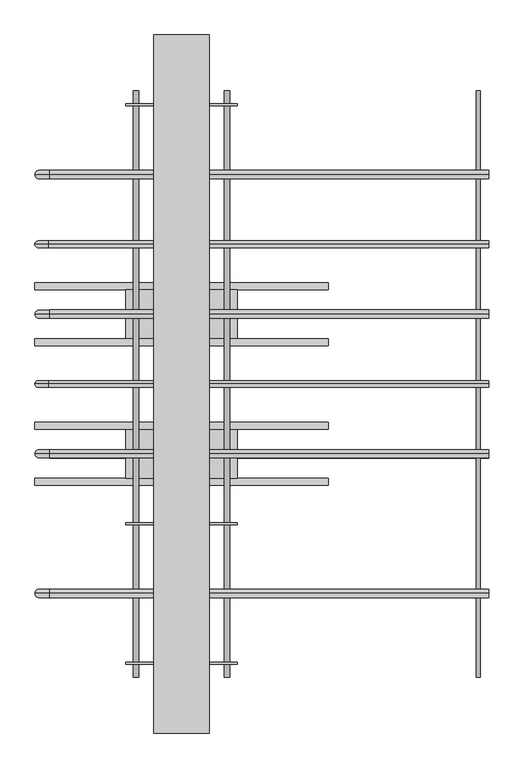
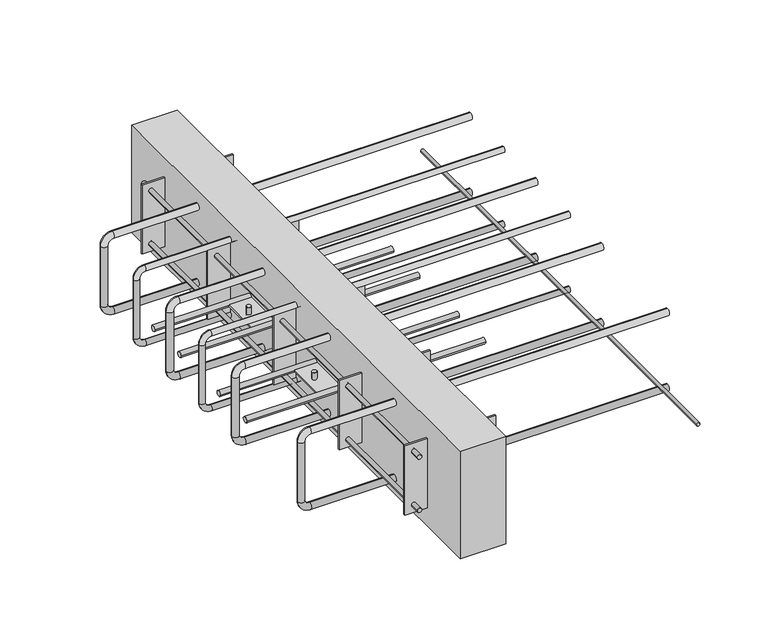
"""IFC4 building model written with IfcOpenShell, lengths in millimetres: proxy geometry, ACINOXplus_Typenreihe_Ux-Ox : UD+ S2."""

from ifc_helpers import new_model, si_unit, point, frame, frame_2d, origin, place, context, project, spatial, polyline, circle_curve, ellipse_curve, trimmed, segment, composite_curve, outline, extrude, source, transform, mapped, element, save
from ifc_brep_helpers import plane_surface, cylinder_surface, revolved_surface, advanced_brep


def generic_models_db024a5b(model_context):
    return source(origin(), model_context, "Body", "SolidModel", [
        advanced_brep(
        [(440.0, 100.0, -23.5), (440.0, 100.0, -35.5), (-189.0, 100.0, -23.5), (-189.0, 100.0, -35.5), (-198.0, 100.0, -44.5), (-210.0, 100.0, -44.5), (-210.0, 100.0, -155.5), (-198.0, 100.0, -155.5), (-189.0, 100.0, -164.5), (-189.0, 100.0, -176.5), (440.0, 100.0, -176.5), (440.0, 100.0, -164.5)],
        [
            (0, 1, circle_curve(frame((440.0, 100.0, -29.5), z_axis=(1.0, 0.0, 0.0), x_axis=(0.0, 0.0, -1.0)), 6.0)),
            (1, 0, circle_curve(frame((440.0, 100.0, -29.5), z_axis=(1.0, 0.0, 0.0), x_axis=(0.0, 0.0, -1.0)), 6.0)),
            (0, 2),
            (2, 3, circle_curve(frame((-189.0, 100.0, -29.5), z_axis=(1.0, 0.0, 0.0), x_axis=(0.0, 0.0, -1.0)), 6.0)),
            (3, 1),
            (3, 2, circle_curve(frame((-189.0, 100.0, -29.5), z_axis=(1.0, 0.0, 0.0), x_axis=(0.0, 0.0, -1.0)), 6.0)),
            (4, 3, circle_curve(frame((-189.0, 100.0, -44.5), z_axis=(0.0, 1.0, 0.0), x_axis=(0.0, 0.0, 1.0)), 9.0)),
            (2, 5, circle_curve(frame((-189.0, 100.0, -44.5), z_axis=(0.0, -1.0, 0.0), x_axis=(0.0, 0.0, 1.0)), 21.0)),
            (5, 4, circle_curve(frame((-204.0, 100.0, -44.5), z_axis=(0.0, 0.0, 1.0), x_axis=(1.0, 0.0, 0.0)), 6.0)),
            (4, 5, circle_curve(frame((-204.0, 100.0, -44.5), z_axis=(0.0, 0.0, 1.0), x_axis=(1.0, 0.0, 0.0)), 6.0)),
            (5, 6),
            (6, 7, circle_curve(frame((-204.0, 100.0, -155.5), z_axis=(0.0, 0.0, 1.0), x_axis=(1.0, 0.0, 0.0)), 6.0)),
            (7, 4),
            (7, 6, circle_curve(frame((-204.0, 100.0, -155.5), z_axis=(0.0, 0.0, 1.0), x_axis=(1.0, 0.0, 0.0)), 6.0)),
            (8, 7, circle_curve(frame((-189.0, 100.0, -155.5), z_axis=(0.0, 1.0, 0.0), x_axis=(-1.0, 0.0, 0.0)), 9.0)),
            (6, 9, circle_curve(frame((-189.0, 100.0, -155.5), z_axis=(0.0, -1.0, 0.0), x_axis=(-1.0, 0.0, 0.0)), 21.0)),
            (9, 8, circle_curve(frame((-189.0, 100.0, -170.5), z_axis=(-1.0, 0.0, 0.0), x_axis=(0.0, 0.0, 1.0)), 6.0)),
            (8, 9, circle_curve(frame((-189.0, 100.0, -170.5), z_axis=(-1.0, 0.0, 0.0), x_axis=(0.0, 0.0, 1.0)), 6.0)),
            (10, 11, circle_curve(frame((440.0, 100.0, -170.5), z_axis=(1.0, 0.0, 0.0), x_axis=(0.0, 0.0, 1.0)), 6.0)),
            (11, 10, circle_curve(frame((440.0, 100.0, -170.5), z_axis=(1.0, 0.0, 0.0), x_axis=(0.0, 0.0, 1.0)), 6.0)),
            (9, 10),
            (11, 8),
        ],
        [
            plane_surface(frame((440.0, 100.0, -29.5), z_axis=(1.0, 0.0, 0.0), x_axis=(0.0, -1.0, 0.0))),
            cylinder_surface(frame((440.0, 100.0, -29.5), z_axis=(1.0, 0.0, 0.0), x_axis=(0.0, 0.0, -1.0)), 6.0),
            revolved_surface(trimmed(ellipse_curve(frame((-189.0, 100.0, -29.5), z_axis=(1.0, 0.0, 0.0), x_axis=(0.0, 0.0, -1.0)), 6.0, 6.0), [point((-189.0, 100.0, -23.5))], [point((-189.0, 100.0, -35.5))], True, "CARTESIAN"), (-189.0, 100.0, -44.5), (0.0, -1.0, 0.0)),
            revolved_surface(trimmed(ellipse_curve(frame((-189.0, 100.0, -29.5), z_axis=(1.0, 0.0, 0.0), x_axis=(0.0, 0.0, -1.0)), 6.0, 6.0), [point((-189.0, 100.0, -35.5))], [point((-189.0, 100.0, -23.5))], True, "CARTESIAN"), (-189.0, 100.0, -44.5), (0.0, -1.0, 0.0)),
            cylinder_surface(frame((-204.0, 100.0, -44.5), z_axis=(0.0, 0.0, 1.0), x_axis=(1.0, 0.0, 0.0)), 6.0),
            revolved_surface(trimmed(ellipse_curve(frame((-204.0, 100.0, -155.5), z_axis=(0.0, 0.0, 1.0), x_axis=(1.0, 0.0, 0.0)), 6.0, 6.0), [point((-210.0, 100.0, -155.5))], [point((-198.0, 100.0, -155.5))], True, "CARTESIAN"), (-189.0, 100.0, -155.5), (0.0, -1.0, 0.0)),
            revolved_surface(trimmed(ellipse_curve(frame((-204.0, 100.0, -155.5), z_axis=(0.0, 0.0, 1.0), x_axis=(1.0, 0.0, 0.0)), 6.0, 6.0), [point((-198.0, 100.0, -155.5))], [point((-210.0, 100.0, -155.5))], True, "CARTESIAN"), (-189.0, 100.0, -155.5), (0.0, -1.0, 0.0)),
            plane_surface(frame((440.0, 100.0, -170.5), z_axis=(1.0, 0.0, 0.0), x_axis=(0.0, -1.0, 0.0))),
            cylinder_surface(frame((-189.0, 100.0, -170.5), z_axis=(-1.0, 0.0, 0.0), x_axis=(0.0, 0.0, 1.0)), 6.0),
        ],
        [
            (0, [[1, 2]]),
            (1, [[-1, 3, 4, 5]]),
            (1, [[-2, -5, 6, -3]]),
            (2, [[7, -4, 8, 9]]),
            (3, [[-8, -6, -7, 10]]),
            (4, [[-9, 11, 12, 13]]),
            (4, [[-10, -13, 14, -11]]),
            (5, [[15, -12, 16, 17]]),
            (6, [[-16, -14, -15, 18]]),
            (7, [[19, 20]]),
            (8, [[-17, 21, -20, 22]]),
            (8, [[-18, -22, -19, -21]]),
        ],
    ),
        advanced_brep(
        [(440.0, -100.0, -23.5), (440.0, -100.0, -35.5), (-189.0, -100.0, -23.5), (-189.0, -100.0, -35.5), (-198.0, -100.0, -44.5), (-210.0, -100.0, -44.5), (-210.0, -100.0, -155.5), (-198.0, -100.0, -155.5), (-189.0, -100.0, -164.5), (-189.0, -100.0, -176.5), (440.0, -100.0, -176.5), (440.0, -100.0, -164.5)],
        [
            (0, 1, circle_curve(frame((440.0, -100.0, -29.5), z_axis=(1.0, 0.0, 0.0), x_axis=(0.0, 0.0, -1.0)), 6.0)),
            (1, 0, circle_curve(frame((440.0, -100.0, -29.5), z_axis=(1.0, 0.0, 0.0), x_axis=(0.0, 0.0, -1.0)), 6.0)),
            (0, 2),
            (2, 3, circle_curve(frame((-189.0, -100.0, -29.5), z_axis=(1.0, 0.0, 0.0), x_axis=(0.0, 0.0, -1.0)), 6.0)),
            (3, 1),
            (3, 2, circle_curve(frame((-189.0, -100.0, -29.5), z_axis=(1.0, 0.0, 0.0), x_axis=(0.0, 0.0, -1.0)), 6.0)),
            (4, 3, circle_curve(frame((-189.0, -100.0, -44.5), z_axis=(0.0, 1.0, 0.0), x_axis=(0.0, 0.0, 1.0)), 9.0)),
            (2, 5, circle_curve(frame((-189.0, -100.0, -44.5), z_axis=(0.0, -1.0, 0.0), x_axis=(0.0, 0.0, 1.0)), 21.0)),
            (5, 4, circle_curve(frame((-204.0, -100.0, -44.5), z_axis=(0.0, 0.0, 1.0), x_axis=(1.0, 0.0, 0.0)), 6.0)),
            (4, 5, circle_curve(frame((-204.0, -100.0, -44.5), z_axis=(0.0, 0.0, 1.0), x_axis=(1.0, 0.0, 0.0)), 6.0)),
            (5, 6),
            (6, 7, circle_curve(frame((-204.0, -100.0, -155.5), z_axis=(0.0, 0.0, 1.0), x_axis=(1.0, 0.0, 0.0)), 6.0)),
            (7, 4),
            (7, 6, circle_curve(frame((-204.0, -100.0, -155.5), z_axis=(0.0, 0.0, 1.0), x_axis=(1.0, 0.0, 0.0)), 6.0)),
            (8, 7, circle_curve(frame((-189.0, -100.0, -155.5), z_axis=(0.0, 1.0, 0.0), x_axis=(-1.0, 0.0, 0.0)), 9.0)),
            (6, 9, circle_curve(frame((-189.0, -100.0, -155.5), z_axis=(0.0, -1.0, 0.0), x_axis=(-1.0, 0.0, 0.0)), 21.0)),
            (9, 8, circle_curve(frame((-189.0, -100.0, -170.5), z_axis=(-1.0, 0.0, 0.0), x_axis=(0.0, 0.0, 1.0)), 6.0)),
            (8, 9, circle_curve(frame((-189.0, -100.0, -170.5), z_axis=(-1.0, 0.0, 0.0), x_axis=(0.0, 0.0, 1.0)), 6.0)),
            (10, 11, circle_curve(frame((440.0, -100.0, -170.5), z_axis=(1.0, 0.0, 0.0), x_axis=(0.0, 0.0, 1.0)), 6.0)),
            (11, 10, circle_curve(frame((440.0, -100.0, -170.5), z_axis=(1.0, 0.0, 0.0), x_axis=(0.0, 0.0, 1.0)), 6.0)),
            (9, 10),
            (11, 8),
        ],
        [
            plane_surface(frame((440.0, -100.0, -29.5), z_axis=(1.0, 0.0, 0.0), x_axis=(0.0, -1.0, 0.0))),
            cylinder_surface(frame((440.0, -100.0, -29.5), z_axis=(1.0, 0.0, 0.0), x_axis=(0.0, 0.0, -1.0)), 6.0),
            revolved_surface(trimmed(ellipse_curve(frame((-189.0, -100.0, -29.5), z_axis=(1.0, 0.0, 0.0), x_axis=(0.0, 0.0, -1.0)), 6.0, 6.0), [point((-189.0, -100.0, -23.5))], [point((-189.0, -100.0, -35.5))], True, "CARTESIAN"), (-189.0, -100.0, -44.5), (0.0, -1.0, 0.0)),
            revolved_surface(trimmed(ellipse_curve(frame((-189.0, -100.0, -29.5), z_axis=(1.0, 0.0, 0.0), x_axis=(0.0, 0.0, -1.0)), 6.0, 6.0), [point((-189.0, -100.0, -35.5))], [point((-189.0, -100.0, -23.5))], True, "CARTESIAN"), (-189.0, -100.0, -44.5), (0.0, -1.0, 0.0)),
            cylinder_surface(frame((-204.0, -100.0, -44.5), z_axis=(0.0, 0.0, 1.0), x_axis=(1.0, 0.0, 0.0)), 6.0),
            revolved_surface(trimmed(ellipse_curve(frame((-204.0, -100.0, -155.5), z_axis=(0.0, 0.0, 1.0), x_axis=(1.0, 0.0, 0.0)), 6.0, 6.0), [point((-210.0, -100.0, -155.5))], [point((-198.0, -100.0, -155.5))], True, "CARTESIAN"), (-189.0, -100.0, -155.5), (0.0, -1.0, 0.0)),
            revolved_surface(trimmed(ellipse_curve(frame((-204.0, -100.0, -155.5), z_axis=(0.0, 0.0, 1.0), x_axis=(1.0, 0.0, 0.0)), 6.0, 6.0), [point((-198.0, -100.0, -155.5))], [point((-210.0, -100.0, -155.5))], True, "CARTESIAN"), (-189.0, -100.0, -155.5), (0.0, -1.0, 0.0)),
            plane_surface(frame((440.0, -100.0, -170.5), z_axis=(1.0, 0.0, 0.0), x_axis=(0.0, -1.0, 0.0))),
            cylinder_surface(frame((-189.0, -100.0, -170.5), z_axis=(-1.0, 0.0, 0.0), x_axis=(0.0, 0.0, 1.0)), 6.0),
        ],
        [
            (0, [[1, 2]]),
            (1, [[-1, 3, 4, 5]]),
            (1, [[-2, -5, 6, -3]]),
            (2, [[7, -4, 8, 9]]),
            (3, [[-8, -6, -7, 10]]),
            (4, [[-9, 11, 12, 13]]),
            (4, [[-10, -13, 14, -11]]),
            (5, [[15, -12, 16, 17]]),
            (6, [[-16, -14, -15, 18]]),
            (7, [[19, 20]]),
            (8, [[-17, 21, -20, 22]]),
            (8, [[-18, -22, -19, -21]]),
        ],
    ),
        advanced_brep(
        [(440.0, 300.0, -23.5), (440.0, 300.0, -35.5), (-189.0, 300.0, -23.5), (-189.0, 300.0, -35.5), (-198.0, 300.0, -44.5), (-210.0, 300.0, -44.5), (-210.0, 300.0, -155.5), (-198.0, 300.0, -155.5), (-189.0, 300.0, -164.5), (-189.0, 300.0, -176.5), (440.0, 300.0, -176.5), (440.0, 300.0, -164.5)],
        [
            (0, 1, circle_curve(frame((440.0, 300.0, -29.5), z_axis=(1.0, 0.0, 0.0), x_axis=(0.0, 0.0, -1.0)), 6.0)),
            (1, 0, circle_curve(frame((440.0, 300.0, -29.5), z_axis=(1.0, 0.0, 0.0), x_axis=(0.0, 0.0, -1.0)), 6.0)),
            (0, 2),
            (2, 3, circle_curve(frame((-189.0, 300.0, -29.5), z_axis=(1.0, 0.0, 0.0), x_axis=(0.0, 0.0, -1.0)), 6.0)),
            (3, 1),
            (3, 2, circle_curve(frame((-189.0, 300.0, -29.5), z_axis=(1.0, 0.0, 0.0), x_axis=(0.0, 0.0, -1.0)), 6.0)),
            (4, 3, circle_curve(frame((-189.0, 300.0, -44.5), z_axis=(0.0, 1.0, 0.0), x_axis=(0.0, 0.0, 1.0)), 9.0)),
            (2, 5, circle_curve(frame((-189.0, 300.0, -44.5), z_axis=(0.0, -1.0, 0.0), x_axis=(0.0, 0.0, 1.0)), 21.0)),
            (5, 4, circle_curve(frame((-204.0, 300.0, -44.5), z_axis=(0.0, 0.0, 1.0), x_axis=(1.0, 0.0, 0.0)), 6.0)),
            (4, 5, circle_curve(frame((-204.0, 300.0, -44.5), z_axis=(0.0, 0.0, 1.0), x_axis=(1.0, 0.0, 0.0)), 6.0)),
            (5, 6),
            (6, 7, circle_curve(frame((-204.0, 300.0, -155.5), z_axis=(0.0, 0.0, 1.0), x_axis=(1.0, 0.0, 0.0)), 6.0)),
            (7, 4),
            (7, 6, circle_curve(frame((-204.0, 300.0, -155.5), z_axis=(0.0, 0.0, 1.0), x_axis=(1.0, 0.0, 0.0)), 6.0)),
            (8, 7, circle_curve(frame((-189.0, 300.0, -155.5), z_axis=(0.0, 1.0, 0.0), x_axis=(-1.0, 0.0, 0.0)), 9.0)),
            (6, 9, circle_curve(frame((-189.0, 300.0, -155.5), z_axis=(0.0, -1.0, 0.0), x_axis=(-1.0, 0.0, 0.0)), 21.0)),
            (9, 8, circle_curve(frame((-189.0, 300.0, -170.5), z_axis=(-1.0, 0.0, 0.0), x_axis=(0.0, 0.0, 1.0)), 6.0)),
            (8, 9, circle_curve(frame((-189.0, 300.0, -170.5), z_axis=(-1.0, 0.0, 0.0), x_axis=(0.0, 0.0, 1.0)), 6.0)),
            (10, 11, circle_curve(frame((440.0, 300.0, -170.5), z_axis=(1.0, 0.0, 0.0), x_axis=(0.0, 0.0, 1.0)), 6.0)),
            (11, 10, circle_curve(frame((440.0, 300.0, -170.5), z_axis=(1.0, 0.0, 0.0), x_axis=(0.0, 0.0, 1.0)), 6.0)),
            (9, 10),
            (11, 8),
        ],
        [
            plane_surface(frame((440.0, 300.0, -29.5), z_axis=(1.0, 0.0, 0.0), x_axis=(0.0, -1.0, 0.0))),
            cylinder_surface(frame((440.0, 300.0, -29.5), z_axis=(1.0, 0.0, 0.0), x_axis=(0.0, 0.0, -1.0)), 6.0),
            revolved_surface(trimmed(ellipse_curve(frame((-189.0, 300.0, -29.5), z_axis=(1.0, 0.0, 0.0), x_axis=(0.0, 0.0, -1.0)), 6.0, 6.0), [point((-189.0, 300.0, -23.5))], [point((-189.0, 300.0, -35.5))], True, "CARTESIAN"), (-189.0, 300.0, -44.5), (0.0, -1.0, 0.0)),
            revolved_surface(trimmed(ellipse_curve(frame((-189.0, 300.0, -29.5), z_axis=(1.0, 0.0, 0.0), x_axis=(0.0, 0.0, -1.0)), 6.0, 6.0), [point((-189.0, 300.0, -35.5))], [point((-189.0, 300.0, -23.5))], True, "CARTESIAN"), (-189.0, 300.0, -44.5), (0.0, -1.0, 0.0)),
            cylinder_surface(frame((-204.0, 300.0, -44.5), z_axis=(0.0, 0.0, 1.0), x_axis=(1.0, 0.0, 0.0)), 6.0),
            revolved_surface(trimmed(ellipse_curve(frame((-204.0, 300.0, -155.5), z_axis=(0.0, 0.0, 1.0), x_axis=(1.0, 0.0, 0.0)), 6.0, 6.0), [point((-210.0, 300.0, -155.5))], [point((-198.0, 300.0, -155.5))], True, "CARTESIAN"), (-189.0, 300.0, -155.5), (0.0, -1.0, 0.0)),
            revolved_surface(trimmed(ellipse_curve(frame((-204.0, 300.0, -155.5), z_axis=(0.0, 0.0, 1.0), x_axis=(1.0, 0.0, 0.0)), 6.0, 6.0), [point((-198.0, 300.0, -155.5))], [point((-210.0, 300.0, -155.5))], True, "CARTESIAN"), (-189.0, 300.0, -155.5), (0.0, -1.0, 0.0)),
            plane_surface(frame((440.0, 300.0, -170.5), z_axis=(1.0, 0.0, 0.0), x_axis=(0.0, -1.0, 0.0))),
            cylinder_surface(frame((-189.0, 300.0, -170.5), z_axis=(-1.0, 0.0, 0.0), x_axis=(0.0, 0.0, 1.0)), 6.0),
        ],
        [
            (0, [[1, 2]]),
            (1, [[-1, 3, 4, 5]]),
            (1, [[-2, -5, 6, -3]]),
            (2, [[7, -4, 8, 9]]),
            (3, [[-8, -6, -7, 10]]),
            (4, [[-9, 11, 12, 13]]),
            (4, [[-10, -13, 14, -11]]),
            (5, [[15, -12, 16, 17]]),
            (6, [[-16, -14, -15, 18]]),
            (7, [[19, 20]]),
            (8, [[-17, 21, -20, 22]]),
            (8, [[-18, -22, -19, -21]]),
        ],
    ),
        advanced_brep(
        [(440.0, -300.0, -23.5), (440.0, -300.0, -35.5), (-189.0, -300.0, -23.5), (-189.0, -300.0, -35.5), (-198.0, -300.0, -44.5), (-210.0, -300.0, -44.5), (-210.0, -300.0, -155.5), (-198.0, -300.0, -155.5), (-189.0, -300.0, -164.5), (-189.0, -300.0, -176.5), (440.0, -300.0, -176.5), (440.0, -300.0, -164.5)],
        [
            (0, 1, circle_curve(frame((440.0, -300.0, -29.5), z_axis=(1.0, 0.0, 0.0), x_axis=(0.0, 0.0, -1.0)), 6.0)),
            (1, 0, circle_curve(frame((440.0, -300.0, -29.5), z_axis=(1.0, 0.0, 0.0), x_axis=(0.0, 0.0, -1.0)), 6.0)),
            (0, 2),
            (2, 3, circle_curve(frame((-189.0, -300.0, -29.5), z_axis=(1.0, 0.0, 0.0), x_axis=(0.0, 0.0, -1.0)), 6.0)),
            (3, 1),
            (3, 2, circle_curve(frame((-189.0, -300.0, -29.5), z_axis=(1.0, 0.0, 0.0), x_axis=(0.0, 0.0, -1.0)), 6.0)),
            (4, 3, circle_curve(frame((-189.0, -300.0, -44.5), z_axis=(0.0, 1.0, 0.0), x_axis=(0.0, 0.0, 1.0)), 9.0)),
            (2, 5, circle_curve(frame((-189.0, -300.0, -44.5), z_axis=(0.0, -1.0, 0.0), x_axis=(0.0, 0.0, 1.0)), 21.0)),
            (5, 4, circle_curve(frame((-204.0, -300.0, -44.5), z_axis=(0.0, 0.0, 1.0), x_axis=(1.0, 0.0, 0.0)), 6.0)),
            (4, 5, circle_curve(frame((-204.0, -300.0, -44.5), z_axis=(0.0, 0.0, 1.0), x_axis=(1.0, 0.0, 0.0)), 6.0)),
            (5, 6),
            (6, 7, circle_curve(frame((-204.0, -300.0, -155.5), z_axis=(0.0, 0.0, 1.0), x_axis=(1.0, 0.0, 0.0)), 6.0)),
            (7, 4),
            (7, 6, circle_curve(frame((-204.0, -300.0, -155.5), z_axis=(0.0, 0.0, 1.0), x_axis=(1.0, 0.0, 0.0)), 6.0)),
            (8, 7, circle_curve(frame((-189.0, -300.0, -155.5), z_axis=(0.0, 1.0, 0.0), x_axis=(-1.0, 0.0, 0.0)), 9.0)),
            (6, 9, circle_curve(frame((-189.0, -300.0, -155.5), z_axis=(0.0, -1.0, 0.0), x_axis=(-1.0, 0.0, 0.0)), 21.0)),
            (9, 8, circle_curve(frame((-189.0, -300.0, -170.5), z_axis=(-1.0, 0.0, 0.0), x_axis=(0.0, 0.0, 1.0)), 6.0)),
            (8, 9, circle_curve(frame((-189.0, -300.0, -170.5), z_axis=(-1.0, 0.0, 0.0), x_axis=(0.0, 0.0, 1.0)), 6.0)),
            (10, 11, circle_curve(frame((440.0, -300.0, -170.5), z_axis=(1.0, 0.0, 0.0), x_axis=(0.0, 0.0, 1.0)), 6.0)),
            (11, 10, circle_curve(frame((440.0, -300.0, -170.5), z_axis=(1.0, 0.0, 0.0), x_axis=(0.0, 0.0, 1.0)), 6.0)),
            (9, 10),
            (11, 8),
        ],
        [
            plane_surface(frame((440.0, -300.0, -29.5), z_axis=(1.0, 0.0, 0.0), x_axis=(0.0, -1.0, 0.0))),
            cylinder_surface(frame((440.0, -300.0, -29.5), z_axis=(1.0, 0.0, 0.0), x_axis=(0.0, 0.0, -1.0)), 6.0),
            revolved_surface(trimmed(ellipse_curve(frame((-189.0, -300.0, -29.5), z_axis=(1.0, 0.0, 0.0), x_axis=(0.0, 0.0, -1.0)), 6.0, 6.0), [point((-189.0, -300.0, -23.5))], [point((-189.0, -300.0, -35.5))], True, "CARTESIAN"), (-189.0, -300.0, -44.5), (0.0, -1.0, 0.0)),
            revolved_surface(trimmed(ellipse_curve(frame((-189.0, -300.0, -29.5), z_axis=(1.0, 0.0, 0.0), x_axis=(0.0, 0.0, -1.0)), 6.0, 6.0), [point((-189.0, -300.0, -35.5))], [point((-189.0, -300.0, -23.5))], True, "CARTESIAN"), (-189.0, -300.0, -44.5), (0.0, -1.0, 0.0)),
            cylinder_surface(frame((-204.0, -300.0, -44.5), z_axis=(0.0, 0.0, 1.0), x_axis=(1.0, 0.0, 0.0)), 6.0),
            revolved_surface(trimmed(ellipse_curve(frame((-204.0, -300.0, -155.5), z_axis=(0.0, 0.0, 1.0), x_axis=(1.0, 0.0, 0.0)), 6.0, 6.0), [point((-210.0, -300.0, -155.5))], [point((-198.0, -300.0, -155.5))], True, "CARTESIAN"), (-189.0, -300.0, -155.5), (0.0, -1.0, 0.0)),
            revolved_surface(trimmed(ellipse_curve(frame((-204.0, -300.0, -155.5), z_axis=(0.0, 0.0, 1.0), x_axis=(1.0, 0.0, 0.0)), 6.0, 6.0), [point((-198.0, -300.0, -155.5))], [point((-210.0, -300.0, -155.5))], True, "CARTESIAN"), (-189.0, -300.0, -155.5), (0.0, -1.0, 0.0)),
            plane_surface(frame((440.0, -300.0, -170.5), z_axis=(1.0, 0.0, 0.0), x_axis=(0.0, -1.0, 0.0))),
            cylinder_surface(frame((-189.0, -300.0, -170.5), z_axis=(-1.0, 0.0, 0.0), x_axis=(0.0, 0.0, 1.0)), 6.0),
        ],
        [
            (0, [[1, 2]]),
            (1, [[-1, 3, 4, 5]]),
            (1, [[-2, -5, 6, -3]]),
            (2, [[7, -4, 8, 9]]),
            (3, [[-8, -6, -7, 10]]),
            (4, [[-9, 11, 12, 13]]),
            (4, [[-10, -13, 14, -11]]),
            (5, [[15, -12, 16, 17]]),
            (6, [[-16, -14, -15, 18]]),
            (7, [[19, 20]]),
            (8, [[-17, 21, -20, 22]]),
            (8, [[-18, -22, -19, -21]]),
        ],
    ),
        extrude(outline(composite_curve([segment(trimmed(circle_curve(frame_2d((-161.5, 425.0)), 3.0), [point((-161.5, 428.0))], [point((-161.5, 422.0))], False, "CARTESIAN"), True, "CONTINUOUS"), segment(trimmed(circle_curve(frame_2d((-161.5, 425.0)), 3.0), [point((-161.5, 422.0))], [point((-161.5, 428.0))], False, "CARTESIAN"), True, "CONTINUOUS")], self_intersect=False)), frame((0.0, -420.0, 0.0), z_axis=(0.0, 1.0, 0.0), x_axis=(0.0, 0.0, 1.0)), (0.0, 0.0, 1.0), 840.0),
        extrude(outline(composite_curve([segment(trimmed(circle_curve(frame_2d((-140.0, -100.0)), 5.0), [point((-145.0, -100.0))], [point((-135.0, -100.0))], False, "CARTESIAN"), True, "CONTINUOUS"), segment(trimmed(circle_curve(frame_2d((-140.0, -100.0)), 5.0), [point((-135.0, -100.0))], [point((-145.0, -100.0))], False, "CARTESIAN"), True, "CONTINUOUS")], self_intersect=False)), frame((-210.0, 0.0, 0.0), z_axis=(1.0, 0.0, 0.0), x_axis=(0.0, 1.0, 0.0)), (0.0, 0.0, 1.0), 420.0),
        extrude(outline(composite_curve([segment(trimmed(circle_curve(frame_2d((-60.0, -100.0)), 5.0), [point((-65.0, -100.0))], [point((-55.0, -100.0))], False, "CARTESIAN"), True, "CONTINUOUS"), segment(trimmed(circle_curve(frame_2d((-60.0, -100.0)), 5.0), [point((-55.0, -100.0))], [point((-65.0, -100.0))], False, "CARTESIAN"), True, "CONTINUOUS")], self_intersect=False)), frame((-210.0, 0.0, 0.0), z_axis=(1.0, 0.0, 0.0), x_axis=(0.0, 1.0, 0.0)), (0.0, 0.0, 1.0), 420.0),
        extrude(outline(composite_curve([segment(trimmed(circle_curve(frame_2d((-65.0, -100.0)), 4.0), [point((-61.0, -100.0))], [point((-69.0, -100.0))], False, "CARTESIAN"), True, "CONTINUOUS"), segment(trimmed(circle_curve(frame_2d((-65.0, -100.0)), 4.0), [point((-69.0, -100.0))], [point((-61.0, -100.0))], False, "CARTESIAN"), True, "CONTINUOUS")], self_intersect=False)), frame((0.0, 0.0, -98.5), z_axis=(0.0, 0.0, 1.0), x_axis=(1.0, 0.0, 0.0)), (0.0, 0.0, 1.0), 13.5),
        extrude(outline(composite_curve([segment(trimmed(circle_curve(frame_2d((65.0, -100.0)), 4.0), [point((69.0, -100.0))], [point((61.0, -100.0))], False, "CARTESIAN"), True, "CONTINUOUS"), segment(trimmed(circle_curve(frame_2d((65.0, -100.0)), 4.0), [point((61.0, -100.0))], [point((69.0, -100.0))], False, "CARTESIAN"), True, "CONTINUOUS")], self_intersect=False)), frame((0.0, 0.0, -98.5), z_axis=(0.0, 0.0, 1.0), x_axis=(1.0, 0.0, 0.0)), (0.0, 0.0, 1.0), 13.5),
        extrude(outline(composite_curve([segment(trimmed(circle_curve(frame_2d((-65.0, -100.0)), 4.0), [point((-69.0, -100.0))], [point((-61.0, -100.0))], False, "CARTESIAN"), True, "CONTINUOUS"), segment(trimmed(circle_curve(frame_2d((-65.0, -100.0)), 4.0), [point((-61.0, -100.0))], [point((-69.0, -100.0))], False, "CARTESIAN"), True, "CONTINUOUS")], self_intersect=False)), frame((0.0, 0.0, -115.0), z_axis=(0.0, 0.0, 1.0), x_axis=(1.0, 0.0, 0.0)), (0.0, 0.0, 1.0), 13.5),
        extrude(outline(composite_curve([segment(trimmed(circle_curve(frame_2d((65.0, -100.0)), 4.0), [point((61.0, -100.0))], [point((69.0, -100.0))], False, "CARTESIAN"), True, "CONTINUOUS"), segment(trimmed(circle_curve(frame_2d((65.0, -100.0)), 4.0), [point((69.0, -100.0))], [point((61.0, -100.0))], False, "CARTESIAN"), True, "CONTINUOUS")], self_intersect=False)), frame((0.0, 0.0, -115.0), z_axis=(0.0, 0.0, 1.0), x_axis=(1.0, 0.0, 0.0)), (0.0, 0.0, 1.0), 13.5),
        extrude(outline(polyline([(80.0, -65.0), (80.0, -135.0), (-80.0, -135.0), (-80.0, -65.0), (80.0, -65.0)])), frame((0.0, 0.0, -101.5), z_axis=(0.0, 0.0, 1.0), x_axis=(1.0, 0.0, 0.0)), (0.0, 0.0, 1.0), 3.0),
        extrude(outline(composite_curve([segment(trimmed(circle_curve(frame_2d((60.0, -100.0)), 5.0), [point((55.0, -100.0))], [point((65.0, -100.0))], False, "CARTESIAN"), True, "CONTINUOUS"), segment(trimmed(circle_curve(frame_2d((60.0, -100.0)), 5.0), [point((65.0, -100.0))], [point((55.0, -100.0))], False, "CARTESIAN"), True, "CONTINUOUS")], self_intersect=False)), frame((-210.0, 0.0, 0.0), z_axis=(1.0, 0.0, 0.0), x_axis=(0.0, 1.0, 0.0)), (0.0, 0.0, 1.0), 420.0),
        extrude(outline(composite_curve([segment(trimmed(circle_curve(frame_2d((140.0, -100.0)), 5.0), [point((135.0, -100.0))], [point((145.0, -100.0))], False, "CARTESIAN"), True, "CONTINUOUS"), segment(trimmed(circle_curve(frame_2d((140.0, -100.0)), 5.0), [point((145.0, -100.0))], [point((135.0, -100.0))], False, "CARTESIAN"), True, "CONTINUOUS")], self_intersect=False)), frame((-210.0, 0.0, 0.0), z_axis=(1.0, 0.0, 0.0), x_axis=(0.0, 1.0, 0.0)), (0.0, 0.0, 1.0), 420.0),
        extrude(outline(composite_curve([segment(trimmed(circle_curve(frame_2d((-65.0, 100.0)), 4.0), [point((-61.0, 100.0))], [point((-69.0, 100.0))], False, "CARTESIAN"), True, "CONTINUOUS"), segment(trimmed(circle_curve(frame_2d((-65.0, 100.0)), 4.0), [point((-69.0, 100.0))], [point((-61.0, 100.0))], False, "CARTESIAN"), True, "CONTINUOUS")], self_intersect=False)), frame((0.0, 0.0, -98.5), z_axis=(0.0, 0.0, 1.0), x_axis=(1.0, 0.0, 0.0)), (0.0, 0.0, 1.0), 13.5),
        extrude(outline(composite_curve([segment(trimmed(circle_curve(frame_2d((65.0, 100.0)), 4.0), [point((69.0, 100.0))], [point((61.0, 100.0))], False, "CARTESIAN"), True, "CONTINUOUS"), segment(trimmed(circle_curve(frame_2d((65.0, 100.0)), 4.0), [point((61.0, 100.0))], [point((69.0, 100.0))], False, "CARTESIAN"), True, "CONTINUOUS")], self_intersect=False)), frame((0.0, 0.0, -98.5), z_axis=(0.0, 0.0, 1.0), x_axis=(1.0, 0.0, 0.0)), (0.0, 0.0, 1.0), 13.5),
        extrude(outline(composite_curve([segment(trimmed(circle_curve(frame_2d((-65.0, 100.0)), 4.0), [point((-69.0, 100.0))], [point((-61.0, 100.0))], False, "CARTESIAN"), True, "CONTINUOUS"), segment(trimmed(circle_curve(frame_2d((-65.0, 100.0)), 4.0), [point((-61.0, 100.0))], [point((-69.0, 100.0))], False, "CARTESIAN"), True, "CONTINUOUS")], self_intersect=False)), frame((0.0, 0.0, -115.0), z_axis=(0.0, 0.0, 1.0), x_axis=(1.0, 0.0, 0.0)), (0.0, 0.0, 1.0), 13.5),
        extrude(outline(composite_curve([segment(trimmed(circle_curve(frame_2d((65.0, 100.0)), 4.0), [point((61.0, 100.0))], [point((69.0, 100.0))], False, "CARTESIAN"), True, "CONTINUOUS"), segment(trimmed(circle_curve(frame_2d((65.0, 100.0)), 4.0), [point((69.0, 100.0))], [point((61.0, 100.0))], False, "CARTESIAN"), True, "CONTINUOUS")], self_intersect=False)), frame((0.0, 0.0, -115.0), z_axis=(0.0, 0.0, 1.0), x_axis=(1.0, 0.0, 0.0)), (0.0, 0.0, 1.0), 13.5),
        extrude(outline(polyline([(80.0, 135.0), (80.0, 65.0), (-80.0, 65.0), (-80.0, 135.0), (80.0, 135.0)])), frame((0.0, 0.0, -101.5), z_axis=(0.0, 0.0, 1.0), x_axis=(1.0, 0.0, 0.0)), (0.0, 0.0, 1.0), 3.0),
        extrude(outline(polyline([(40.0, 500.0), (40.0, -500.0), (-40.0, -500.0), (-40.0, 500.0), (40.0, 500.0)])), frame((0.0, 0.0, -200.0), z_axis=(0.0, 0.0, 1.0), x_axis=(1.0, 0.0, 0.0)), (0.0, 0.0, 1.0), 200.0),
        extrude(outline(polyline([(80.0, -198.5), (80.0, -201.5), (-80.0, -201.5), (-80.0, -198.5), (80.0, -198.5)])), frame((0.0, 0.0, -164.5), z_axis=(0.0, 0.0, 1.0), x_axis=(1.0, 0.0, 0.0)), (0.0, 0.0, 1.0), 129.0),
        extrude(outline(polyline([(80.0, 1.5), (80.0, -1.5), (-80.0, -1.5), (-80.0, 1.5), (80.0, 1.5)])), frame((0.0, 0.0, -164.5), z_axis=(0.0, 0.0, 1.0), x_axis=(1.0, 0.0, 0.0)), (0.0, 0.0, 1.0), 129.0),
        extrude(outline(polyline([(80.0, 201.5), (80.0, 198.5), (-80.0, 198.5), (-80.0, 201.5), (80.0, 201.5)])), frame((0.0, 0.0, -164.5), z_axis=(0.0, 0.0, 1.0), x_axis=(1.0, 0.0, 0.0)), (0.0, 0.0, 1.0), 129.0),
        extrude(outline(polyline([(80.0, -398.5), (80.0, -401.5), (-80.0, -401.5), (-80.0, -398.5), (80.0, -398.5)])), frame((0.0, 0.0, -164.5), z_axis=(0.0, 0.0, 1.0), x_axis=(1.0, 0.0, 0.0)), (0.0, 0.0, 1.0), 129.0),
        extrude(outline(polyline([(80.0, 401.5), (80.0, 398.5), (-80.0, 398.5), (-80.0, 401.5), (80.0, 401.5)])), frame((0.0, 0.0, -164.5), z_axis=(0.0, 0.0, 1.0), x_axis=(1.0, 0.0, 0.0)), (0.0, 0.0, 1.0), 129.0),
        extrude(outline(composite_curve([segment(trimmed(circle_curve(frame_2d((-149.5, -65.0)), 4.0), [point((-149.5, -61.0))], [point((-149.5, -69.0))], False, "CARTESIAN"), True, "CONTINUOUS"), segment(trimmed(circle_curve(frame_2d((-149.5, -65.0)), 4.0), [point((-149.5, -69.0))], [point((-149.5, -61.0))], False, "CARTESIAN"), True, "CONTINUOUS")], self_intersect=False)), frame((0.0, -420.0, 0.0), z_axis=(0.0, 1.0, 0.0), x_axis=(0.0, 0.0, 1.0)), (0.0, 0.0, 1.0), 18.5),
        extrude(outline(composite_curve([segment(trimmed(circle_curve(frame_2d((-149.5, -65.0)), 4.0), [point((-149.5, -69.0))], [point((-149.5, -61.0))], False, "CARTESIAN"), True, "CONTINUOUS"), segment(trimmed(circle_curve(frame_2d((-149.5, -65.0)), 4.0), [point((-149.5, -61.0))], [point((-149.5, -69.0))], False, "CARTESIAN"), True, "CONTINUOUS")], self_intersect=False)), frame((0.0, -398.5, 0.0), z_axis=(0.0, 1.0, 0.0), x_axis=(0.0, 0.0, 1.0)), (0.0, 0.0, 1.0), 597.0),
        extrude(outline(composite_curve([segment(trimmed(circle_curve(frame_2d((-149.5, -65.0)), 4.0), [point((-149.5, -69.0))], [point((-149.5, -61.0))], False, "CARTESIAN"), True, "CONTINUOUS"), segment(trimmed(circle_curve(frame_2d((-149.5, -65.0)), 4.0), [point((-149.5, -61.0))], [point((-149.5, -69.0))], False, "CARTESIAN"), True, "CONTINUOUS")], self_intersect=False)), frame((0.0, 401.5, 0.0), z_axis=(0.0, 1.0, 0.0), x_axis=(0.0, 0.0, 1.0)), (0.0, 0.0, 1.0), 18.5),
        extrude(outline(composite_curve([segment(trimmed(circle_curve(frame_2d((-149.5, -65.0)), 4.0), [point((-149.5, -69.0))], [point((-149.5, -61.0))], False, "CARTESIAN"), True, "CONTINUOUS"), segment(trimmed(circle_curve(frame_2d((-149.5, -65.0)), 4.0), [point((-149.5, -61.0))], [point((-149.5, -69.0))], False, "CARTESIAN"), True, "CONTINUOUS")], self_intersect=False)), frame((0.0, 201.5, 0.0), z_axis=(0.0, 1.0, 0.0), x_axis=(0.0, 0.0, 1.0)), (0.0, 0.0, 1.0), 197.0),
        extrude(outline(composite_curve([segment(trimmed(circle_curve(frame_2d((-149.5, 65.0)), 4.0), [point((-149.5, 69.0))], [point((-149.5, 61.0))], False, "CARTESIAN"), True, "CONTINUOUS"), segment(trimmed(circle_curve(frame_2d((-149.5, 65.0)), 4.0), [point((-149.5, 61.0))], [point((-149.5, 69.0))], False, "CARTESIAN"), True, "CONTINUOUS")], self_intersect=False)), frame((0.0, -420.0, 0.0), z_axis=(0.0, 1.0, 0.0), x_axis=(0.0, 0.0, 1.0)), (0.0, 0.0, 1.0), 18.5),
        extrude(outline(composite_curve([segment(trimmed(circle_curve(frame_2d((-149.5, 65.0)), 4.0), [point((-149.5, 61.0))], [point((-149.5, 69.0))], False, "CARTESIAN"), True, "CONTINUOUS"), segment(trimmed(circle_curve(frame_2d((-149.5, 65.0)), 4.0), [point((-149.5, 69.0))], [point((-149.5, 61.0))], False, "CARTESIAN"), True, "CONTINUOUS")], self_intersect=False)), frame((0.0, -398.5, 0.0), z_axis=(0.0, 1.0, 0.0), x_axis=(0.0, 0.0, 1.0)), (0.0, 0.0, 1.0), 597.0),
        extrude(outline(composite_curve([segment(trimmed(circle_curve(frame_2d((-149.5, 65.0)), 4.0), [point((-149.5, 61.0))], [point((-149.5, 69.0))], False, "CARTESIAN"), True, "CONTINUOUS"), segment(trimmed(circle_curve(frame_2d((-149.5, 65.0)), 4.0), [point((-149.5, 69.0))], [point((-149.5, 61.0))], False, "CARTESIAN"), True, "CONTINUOUS")], self_intersect=False)), frame((0.0, 401.5, 0.0), z_axis=(0.0, 1.0, 0.0), x_axis=(0.0, 0.0, 1.0)), (0.0, 0.0, 1.0), 18.5),
        extrude(outline(composite_curve([segment(trimmed(circle_curve(frame_2d((-149.5, 65.0)), 4.0), [point((-149.5, 61.0))], [point((-149.5, 69.0))], False, "CARTESIAN"), True, "CONTINUOUS"), segment(trimmed(circle_curve(frame_2d((-149.5, 65.0)), 4.0), [point((-149.5, 69.0))], [point((-149.5, 61.0))], False, "CARTESIAN"), True, "CONTINUOUS")], self_intersect=False)), frame((0.0, 201.5, 0.0), z_axis=(0.0, 1.0, 0.0), x_axis=(0.0, 0.0, 1.0)), (0.0, 0.0, 1.0), 197.0),
        extrude(outline(composite_curve([segment(trimmed(circle_curve(frame_2d((-50.5, -65.0)), 4.0), [point((-50.5, -69.0))], [point((-50.5, -61.0))], False, "CARTESIAN"), True, "CONTINUOUS"), segment(trimmed(circle_curve(frame_2d((-50.5, -65.0)), 4.0), [point((-50.5, -61.0))], [point((-50.5, -69.0))], False, "CARTESIAN"), True, "CONTINUOUS")], self_intersect=False)), frame((0.0, 401.5, 0.0), z_axis=(0.0, 1.0, 0.0), x_axis=(0.0, 0.0, 1.0)), (0.0, 0.0, 1.0), 18.5),
        extrude(outline(composite_curve([segment(trimmed(circle_curve(frame_2d((-50.5, -65.0)), 4.0), [point((-50.5, -61.0))], [point((-50.5, -69.0))], False, "CARTESIAN"), True, "CONTINUOUS"), segment(trimmed(circle_curve(frame_2d((-50.5, -65.0)), 4.0), [point((-50.5, -69.0))], [point((-50.5, -61.0))], False, "CARTESIAN"), True, "CONTINUOUS")], self_intersect=False)), frame((0.0, -420.0, 0.0), z_axis=(0.0, 1.0, 0.0), x_axis=(0.0, 0.0, 1.0)), (0.0, 0.0, 1.0), 18.5),
        extrude(outline(composite_curve([segment(trimmed(circle_curve(frame_2d((-50.5, -65.0)), 4.0), [point((-50.5, -69.0))], [point((-50.5, -61.0))], False, "CARTESIAN"), True, "CONTINUOUS"), segment(trimmed(circle_curve(frame_2d((-50.5, -65.0)), 4.0), [point((-50.5, -61.0))], [point((-50.5, -69.0))], False, "CARTESIAN"), True, "CONTINUOUS")], self_intersect=False)), frame((0.0, -398.5, 0.0), z_axis=(0.0, 1.0, 0.0), x_axis=(0.0, 0.0, 1.0)), (0.0, 0.0, 1.0), 597.0),
        extrude(outline(composite_curve([segment(trimmed(circle_curve(frame_2d((-50.5, -65.0)), 4.0), [point((-50.5, -69.0))], [point((-50.5, -61.0))], False, "CARTESIAN"), True, "CONTINUOUS"), segment(trimmed(circle_curve(frame_2d((-50.5, -65.0)), 4.0), [point((-50.5, -61.0))], [point((-50.5, -69.0))], False, "CARTESIAN"), True, "CONTINUOUS")], self_intersect=False)), frame((0.0, 201.5, 0.0), z_axis=(0.0, 1.0, 0.0), x_axis=(0.0, 0.0, 1.0)), (0.0, 0.0, 1.0), 197.0),
        extrude(outline(composite_curve([segment(trimmed(circle_curve(frame_2d((-50.5, 65.0)), 4.0), [point((-50.5, 61.0))], [point((-50.5, 69.0))], False, "CARTESIAN"), True, "CONTINUOUS"), segment(trimmed(circle_curve(frame_2d((-50.5, 65.0)), 4.0), [point((-50.5, 69.0))], [point((-50.5, 61.0))], False, "CARTESIAN"), True, "CONTINUOUS")], self_intersect=False)), frame((0.0, 401.5, 0.0), z_axis=(0.0, 1.0, 0.0), x_axis=(0.0, 0.0, 1.0)), (0.0, 0.0, 1.0), 18.5),
        extrude(outline(composite_curve([segment(trimmed(circle_curve(frame_2d((-50.5, 65.0)), 4.0), [point((-50.5, 69.0))], [point((-50.5, 61.0))], False, "CARTESIAN"), True, "CONTINUOUS"), segment(trimmed(circle_curve(frame_2d((-50.5, 65.0)), 4.0), [point((-50.5, 61.0))], [point((-50.5, 69.0))], False, "CARTESIAN"), True, "CONTINUOUS")], self_intersect=False)), frame((0.0, -420.0, 0.0), z_axis=(0.0, 1.0, 0.0), x_axis=(0.0, 0.0, 1.0)), (0.0, 0.0, 1.0), 18.5),
        extrude(outline(composite_curve([segment(trimmed(circle_curve(frame_2d((-50.5, 65.0)), 4.0), [point((-50.5, 61.0))], [point((-50.5, 69.0))], False, "CARTESIAN"), True, "CONTINUOUS"), segment(trimmed(circle_curve(frame_2d((-50.5, 65.0)), 4.0), [point((-50.5, 69.0))], [point((-50.5, 61.0))], False, "CARTESIAN"), True, "CONTINUOUS")], self_intersect=False)), frame((0.0, -398.5, 0.0), z_axis=(0.0, 1.0, 0.0), x_axis=(0.0, 0.0, 1.0)), (0.0, 0.0, 1.0), 597.0),
        extrude(outline(composite_curve([segment(trimmed(circle_curve(frame_2d((-50.5, 65.0)), 4.0), [point((-50.5, 61.0))], [point((-50.5, 69.0))], False, "CARTESIAN"), True, "CONTINUOUS"), segment(trimmed(circle_curve(frame_2d((-50.5, 65.0)), 4.0), [point((-50.5, 69.0))], [point((-50.5, 61.0))], False, "CARTESIAN"), True, "CONTINUOUS")], self_intersect=False)), frame((0.0, 201.5, 0.0), z_axis=(0.0, 1.0, 0.0), x_axis=(0.0, 0.0, 1.0)), (0.0, 0.0, 1.0), 197.0),
        advanced_brep(
        [(440.0, 200.0, -25.5), (440.0, 200.0, -35.5), (-190.0, 200.0, -25.5), (-190.0, 200.0, -35.5), (-200.0, 200.0, -45.5), (-210.0, 200.0, -45.5), (-210.0, 200.0, -154.5), (-200.0, 200.0, -154.5), (-190.0, 200.0, -164.5), (-190.0, 200.0, -174.5), (440.0, 200.0, -174.5), (440.0, 200.0, -164.5)],
        [
            (0, 1, circle_curve(frame((440.0, 200.0, -30.5), z_axis=(1.0, 0.0, 0.0), x_axis=(0.0, 0.0, -1.0)), 5.0)),
            (1, 0, circle_curve(frame((440.0, 200.0, -30.5), z_axis=(1.0, 0.0, 0.0), x_axis=(0.0, 0.0, -1.0)), 5.0)),
            (0, 2),
            (2, 3, circle_curve(frame((-190.0, 200.0, -30.5), z_axis=(1.0, 0.0, 0.0), x_axis=(0.0, 0.0, -1.0)), 5.0)),
            (3, 1),
            (3, 2, circle_curve(frame((-190.0, 200.0, -30.5), z_axis=(1.0, 0.0, 0.0), x_axis=(0.0, 0.0, -1.0)), 5.0)),
            (4, 3, circle_curve(frame((-190.0, 200.0, -45.5), z_axis=(0.0, 1.0, 0.0), x_axis=(0.0, 0.0, 1.0)), 10.0)),
            (2, 5, circle_curve(frame((-190.0, 200.0, -45.5), z_axis=(0.0, -1.0, 0.0), x_axis=(0.0, 0.0, 1.0)), 20.0)),
            (5, 4, circle_curve(frame((-205.0, 200.0, -45.5), z_axis=(0.0, 0.0, 1.0), x_axis=(1.0, 0.0, 0.0)), 5.0)),
            (4, 5, circle_curve(frame((-205.0, 200.0, -45.5), z_axis=(0.0, 0.0, 1.0), x_axis=(1.0, 0.0, 0.0)), 5.0)),
            (5, 6),
            (6, 7, circle_curve(frame((-205.0, 200.0, -154.5), z_axis=(0.0, 0.0, 1.0), x_axis=(1.0, 0.0, 0.0)), 5.0)),
            (7, 4),
            (7, 6, circle_curve(frame((-205.0, 200.0, -154.5), z_axis=(0.0, 0.0, 1.0), x_axis=(1.0, 0.0, 0.0)), 5.0)),
            (8, 7, circle_curve(frame((-190.0, 200.0, -154.5), z_axis=(0.0, 1.0, 0.0), x_axis=(-1.0, 0.0, 0.0)), 10.0)),
            (6, 9, circle_curve(frame((-190.0, 200.0, -154.5), z_axis=(0.0, -1.0, 0.0), x_axis=(-1.0, 0.0, 0.0)), 20.0)),
            (9, 8, circle_curve(frame((-190.0, 200.0, -169.5), z_axis=(-1.0, 0.0, 0.0), x_axis=(0.0, 0.0, 1.0)), 5.0)),
            (8, 9, circle_curve(frame((-190.0, 200.0, -169.5), z_axis=(-1.0, 0.0, 0.0), x_axis=(0.0, 0.0, 1.0)), 5.0)),
            (10, 11, circle_curve(frame((440.0, 200.0, -169.5), z_axis=(1.0, 0.0, 0.0), x_axis=(0.0, 0.0, 1.0)), 5.0)),
            (11, 10, circle_curve(frame((440.0, 200.0, -169.5), z_axis=(1.0, 0.0, 0.0), x_axis=(0.0, 0.0, 1.0)), 5.0)),
            (9, 10),
            (11, 8),
        ],
        [
            plane_surface(frame((440.0, 200.0, -30.5), z_axis=(1.0, 0.0, 0.0), x_axis=(0.0, -1.0, 0.0))),
            cylinder_surface(frame((440.0, 200.0, -30.5), z_axis=(1.0, 0.0, 0.0), x_axis=(0.0, 0.0, -1.0)), 5.0),
            revolved_surface(trimmed(ellipse_curve(frame((-190.0, 200.0, -30.5), z_axis=(1.0, 0.0, 0.0), x_axis=(0.0, 0.0, -1.0)), 5.0, 5.0), [point((-190.0, 200.0, -25.5))], [point((-190.0, 200.0, -35.5))], True, "CARTESIAN"), (-190.0, 200.0, -45.5), (0.0, -1.0, 0.0)),
            revolved_surface(trimmed(ellipse_curve(frame((-190.0, 200.0, -30.5), z_axis=(1.0, 0.0, 0.0), x_axis=(0.0, 0.0, -1.0)), 5.0, 5.0), [point((-190.0, 200.0, -35.5))], [point((-190.0, 200.0, -25.5))], True, "CARTESIAN"), (-190.0, 200.0, -45.5), (0.0, -1.0, 0.0)),
            cylinder_surface(frame((-205.0, 200.0, -45.5), z_axis=(0.0, 0.0, 1.0), x_axis=(1.0, 0.0, 0.0)), 5.0),
            revolved_surface(trimmed(ellipse_curve(frame((-205.0, 200.0, -154.5), z_axis=(0.0, 0.0, 1.0), x_axis=(1.0, 0.0, 0.0)), 5.0, 5.0), [point((-210.0, 200.0, -154.5))], [point((-200.0, 200.0, -154.5))], True, "CARTESIAN"), (-190.0, 200.0, -154.5), (0.0, -1.0, 0.0)),
            revolved_surface(trimmed(ellipse_curve(frame((-205.0, 200.0, -154.5), z_axis=(0.0, 0.0, 1.0), x_axis=(1.0, 0.0, 0.0)), 5.0, 5.0), [point((-200.0, 200.0, -154.5))], [point((-210.0, 200.0, -154.5))], True, "CARTESIAN"), (-190.0, 200.0, -154.5), (0.0, -1.0, 0.0)),
            plane_surface(frame((440.0, 200.0, -169.5), z_axis=(1.0, 0.0, 0.0), x_axis=(0.0, -1.0, 0.0))),
            cylinder_surface(frame((-190.0, 200.0, -169.5), z_axis=(-1.0, 0.0, 0.0), x_axis=(0.0, 0.0, 1.0)), 5.0),
        ],
        [
            (0, [[1, 2]]),
            (1, [[-1, 3, 4, 5]]),
            (1, [[-2, -5, 6, -3]]),
            (2, [[7, -4, 8, 9]]),
            (3, [[-8, -6, -7, 10]]),
            (4, [[-9, 11, 12, 13]]),
            (4, [[-10, -13, 14, -11]]),
            (5, [[15, -12, 16, 17]]),
            (6, [[-16, -14, -15, 18]]),
            (7, [[19, 20]]),
            (8, [[-17, 21, -20, 22]]),
            (8, [[-18, -22, -19, -21]]),
        ],
    ),
        advanced_brep(
        [(440.0, 0.0, -25.5), (440.0, 0.0, -35.5), (-190.0, 0.0, -25.5), (-190.0, 0.0, -35.5), (-200.0, 0.0, -45.5), (-210.0, 0.0, -45.5), (-210.0, 0.0, -154.5), (-200.0, 0.0, -154.5), (-190.0, 0.0, -164.5), (-190.0, 0.0, -174.5), (440.0, 0.0, -174.5), (440.0, 0.0, -164.5)],
        [
            (0, 1, circle_curve(frame((440.0, 0.0, -30.5), z_axis=(1.0, 0.0, 0.0), x_axis=(0.0, 0.0, -1.0)), 5.0)),
            (1, 0, circle_curve(frame((440.0, 0.0, -30.5), z_axis=(1.0, 0.0, 0.0), x_axis=(0.0, 0.0, -1.0)), 5.0)),
            (0, 2),
            (2, 3, circle_curve(frame((-190.0, 0.0, -30.5), z_axis=(1.0, 0.0, 0.0), x_axis=(0.0, 0.0, -1.0)), 5.0)),
            (3, 1),
            (3, 2, circle_curve(frame((-190.0, 0.0, -30.5), z_axis=(1.0, 0.0, 0.0), x_axis=(0.0, 0.0, -1.0)), 5.0)),
            (4, 3, circle_curve(frame((-190.0, 0.0, -45.5), z_axis=(0.0, 1.0, 0.0), x_axis=(0.0, 0.0, 1.0)), 10.0)),
            (2, 5, circle_curve(frame((-190.0, 0.0, -45.5), z_axis=(0.0, -1.0, 0.0), x_axis=(0.0, 0.0, 1.0)), 20.0)),
            (5, 4, circle_curve(frame((-205.0, 0.0, -45.5), z_axis=(0.0, 0.0, 1.0), x_axis=(1.0, 0.0, 0.0)), 5.0)),
            (4, 5, circle_curve(frame((-205.0, 0.0, -45.5), z_axis=(0.0, 0.0, 1.0), x_axis=(1.0, 0.0, 0.0)), 5.0)),
            (5, 6),
            (6, 7, circle_curve(frame((-205.0, 0.0, -154.5), z_axis=(0.0, 0.0, 1.0), x_axis=(1.0, 0.0, 0.0)), 5.0)),
            (7, 4),
            (7, 6, circle_curve(frame((-205.0, 0.0, -154.5), z_axis=(0.0, 0.0, 1.0), x_axis=(1.0, 0.0, 0.0)), 5.0)),
            (8, 7, circle_curve(frame((-190.0, 0.0, -154.5), z_axis=(0.0, 1.0, 0.0), x_axis=(-1.0, 0.0, 0.0)), 10.0)),
            (6, 9, circle_curve(frame((-190.0, 0.0, -154.5), z_axis=(0.0, -1.0, 0.0), x_axis=(-1.0, 0.0, 0.0)), 20.0)),
            (9, 8, circle_curve(frame((-190.0, 0.0, -169.5), z_axis=(-1.0, 0.0, 0.0), x_axis=(0.0, 0.0, 1.0)), 5.0)),
            (8, 9, circle_curve(frame((-190.0, 0.0, -169.5), z_axis=(-1.0, 0.0, 0.0), x_axis=(0.0, 0.0, 1.0)), 5.0)),
            (10, 11, circle_curve(frame((440.0, 0.0, -169.5), z_axis=(1.0, 0.0, 0.0), x_axis=(0.0, 0.0, 1.0)), 5.0)),
            (11, 10, circle_curve(frame((440.0, 0.0, -169.5), z_axis=(1.0, 0.0, 0.0), x_axis=(0.0, 0.0, 1.0)), 5.0)),
            (9, 10),
            (11, 8),
        ],
        [
            plane_surface(frame((440.0, 0.0, -30.5), z_axis=(1.0, 0.0, 0.0), x_axis=(0.0, -1.0, 0.0))),
            cylinder_surface(frame((440.0, 0.0, -30.5), z_axis=(1.0, 0.0, 0.0), x_axis=(0.0, 0.0, -1.0)), 5.0),
            revolved_surface(trimmed(ellipse_curve(frame((-190.0, 0.0, -30.5), z_axis=(1.0, 0.0, 0.0), x_axis=(0.0, 0.0, -1.0)), 5.0, 5.0), [point((-190.0, 0.0, -25.5))], [point((-190.0, 0.0, -35.5))], True, "CARTESIAN"), (-190.0, 0.0, -45.5), (0.0, -1.0, 0.0)),
            revolved_surface(trimmed(ellipse_curve(frame((-190.0, 0.0, -30.5), z_axis=(1.0, 0.0, 0.0), x_axis=(0.0, 0.0, -1.0)), 5.0, 5.0), [point((-190.0, 0.0, -35.5))], [point((-190.0, 0.0, -25.5))], True, "CARTESIAN"), (-190.0, 0.0, -45.5), (0.0, -1.0, 0.0)),
            cylinder_surface(frame((-205.0, 0.0, -45.5), z_axis=(0.0, 0.0, 1.0), x_axis=(1.0, 0.0, 0.0)), 5.0),
            revolved_surface(trimmed(ellipse_curve(frame((-205.0, 0.0, -154.5), z_axis=(0.0, 0.0, 1.0), x_axis=(1.0, 0.0, 0.0)), 5.0, 5.0), [point((-210.0, 0.0, -154.5))], [point((-200.0, 0.0, -154.5))], True, "CARTESIAN"), (-190.0, 0.0, -154.5), (0.0, -1.0, 0.0)),
            revolved_surface(trimmed(ellipse_curve(frame((-205.0, 0.0, -154.5), z_axis=(0.0, 0.0, 1.0), x_axis=(1.0, 0.0, 0.0)), 5.0, 5.0), [point((-200.0, 0.0, -154.5))], [point((-210.0, 0.0, -154.5))], True, "CARTESIAN"), (-190.0, 0.0, -154.5), (0.0, -1.0, 0.0)),
            plane_surface(frame((440.0, 0.0, -169.5), z_axis=(1.0, 0.0, 0.0), x_axis=(0.0, -1.0, 0.0))),
            cylinder_surface(frame((-190.0, 0.0, -169.5), z_axis=(-1.0, 0.0, 0.0), x_axis=(0.0, 0.0, 1.0)), 5.0),
        ],
        [
            (0, [[1, 2]]),
            (1, [[-1, 3, 4, 5]]),
            (1, [[-2, -5, 6, -3]]),
            (2, [[7, -4, 8, 9]]),
            (3, [[-8, -6, -7, 10]]),
            (4, [[-9, 11, 12, 13]]),
            (4, [[-10, -13, 14, -11]]),
            (5, [[15, -12, 16, 17]]),
            (6, [[-16, -14, -15, 18]]),
            (7, [[19, 20]]),
            (8, [[-17, 21, -20, 22]]),
            (8, [[-18, -22, -19, -21]]),
        ],
    ),
    ])


if __name__ == "__main__":
    model = new_model("IFC4")
    model_context = context("Model", 3, world=origin())
    ifc_project = project(units=[si_unit("LENGTHUNIT", "METRE", prefix="MILLI")], contexts=[model_context])
    site = spatial("IfcSite", under=ifc_project)
    building = spatial("IfcBuilding", under=site)
    placement = place(None, origin())
    generic_models_shape = generic_models_db024a5b(model_context)
    element("IfcBuildingElementProxy", 1, Name="ACINOXplus_Typenreihe_Ux-Ox : UD+ S2", ObjectType="ACINOXplus_Typenreihe_Ux-Ox : UD+ S2", at=placement, inside=building, context=model_context, shape_type="MappedRepresentation", body=[
        mapped(generic_models_shape, transform((0.0, 0.0, 0.0), x_axis=(1.0, 0.0, 0.0), y_axis=(0.0, 1.0, 0.0), z_axis=(0.0, 0.0, 1.0))),
    ])
    save(model, "model.ifc")
